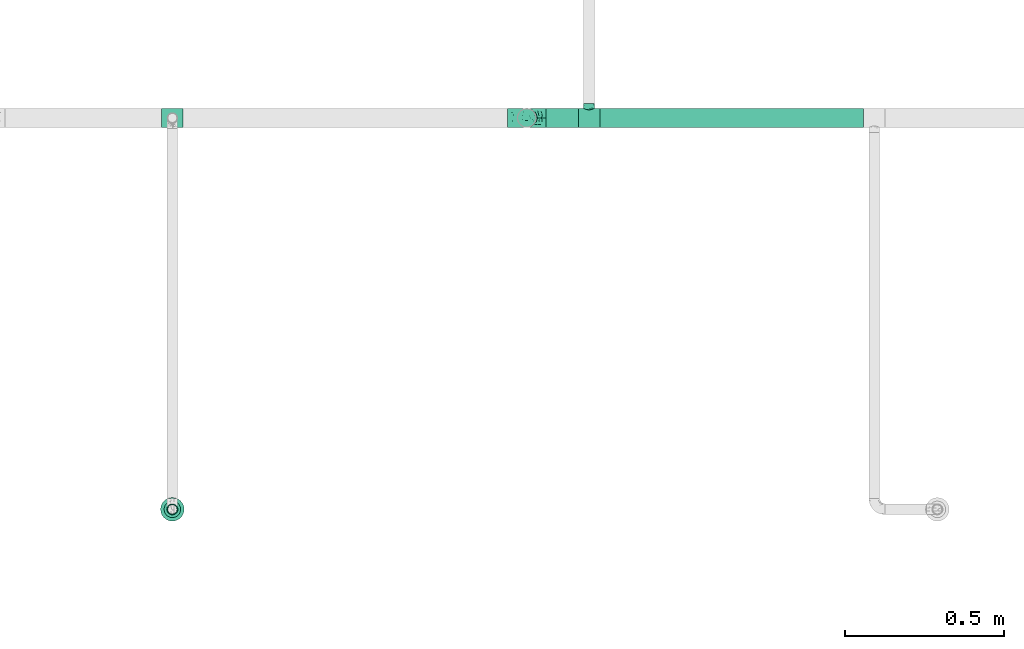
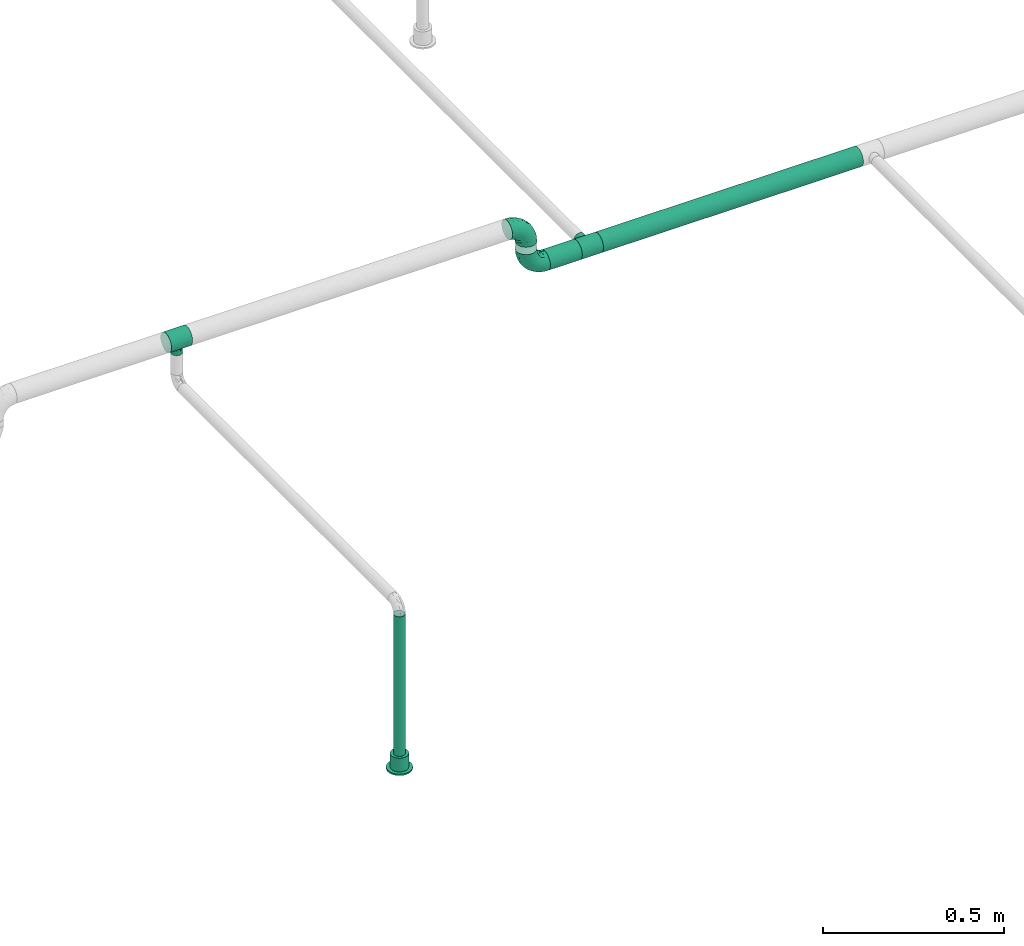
# One storey, part 24 of 95: 4 flow fittings, 3 flow segments, 1 flow terminal.
"""IFC2X3 building model written with IfcOpenShell, lengths in millimetres."""

from ifc_helpers import new_model, entity, si_unit, converted_unit, derived_unit, direction, frame, origin_with_axes, origin_2d_with_axis, place, context, subcontext, project, spatial, hollow_circle, extrude, open_shell, surface_model, source, transform, mapped, type_object, element, save


model = new_model("IFC2X3")

# Units and contexts
model_context = context("Model", 3, precision=0.01, world=frame((0.0, 4.29681676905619e-09, 0.0)), true_north=direction((4.01073788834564e-13, 1.0)))
plan_context = context("Plan", 3, precision=0.01, world=frame((0.0, 4.29681676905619e-09, 0.0)), true_north=direction((4.01073788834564e-13, 1.0)))
body_context = subcontext(model_context, "Body", "Model", "MODEL_VIEW")
ifc_project = project(units=[converted_unit("PLANEANGLEUNIT", "DEGREE", entity("IfcPositiveLengthMeasure", 0.0174532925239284), si_unit("PLANEANGLEUNIT", "RADIAN"), dimensions=[0, 0, 0, 0, 0, 0, 0]), si_unit("AREAUNIT", "SQUARE_METRE"), si_unit("LENGTHUNIT", "METRE", prefix="MILLI"), si_unit("MASSUNIT", "GRAM", prefix="KILO"), si_unit("POWERUNIT", "WATT"), si_unit("PRESSUREUNIT", "PASCAL"), si_unit("FORCEUNIT", "NEWTON", prefix="KILO"), si_unit("ELECTRICVOLTAGEUNIT", "VOLT"), si_unit("ELECTRICCURRENTUNIT", "AMPERE"), si_unit("THERMODYNAMICTEMPERATUREUNIT", "DEGREE_CELSIUS"), si_unit("TIMEUNIT", "SECOND"), si_unit("VOLUMEUNIT", "CUBIC_METRE"), derived_unit("LINEARVELOCITYUNIT", [(si_unit("LENGTHUNIT", "METRE"), 1), (si_unit("TIMEUNIT", "SECOND"), -1)]), derived_unit("VOLUMETRICFLOWRATEUNIT", [(si_unit("VOLUMEUNIT", "CUBIC_METRE"), 1), (si_unit("TIMEUNIT", "SECOND"), -1)]), derived_unit("THERMALTRANSMITTANCEUNIT", [(si_unit("POWERUNIT", "WATT"), 1), (si_unit("THERMODYNAMICTEMPERATUREUNIT", "KELVIN"), -1), (si_unit("AREAUNIT", "SQUARE_METRE"), -1)]), derived_unit("SOUNDPRESSUREUNIT", [(si_unit("PRESSUREUNIT", "PASCAL"), 1)])], contexts=[model_context, plan_context])

# Site, building, storey
site_placement = place(None, frame((0.0, -4.29681676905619e-09, 0.0), z_axis=(0.0, 0.0, 1.0), x_axis=(1.0, 0.0, 0.0)))
site = spatial("IfcSite", under=ifc_project, at=site_placement, CompositionType="ELEMENT")
building_placement = place(site_placement, frame((0.0, 4.29681676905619e-09, 0.0), z_axis=(0.0, 0.0, 1.0), x_axis=(1.0, 0.0, 0.0)))
building = spatial("IfcBuilding", under=site, at=building_placement, Name="mc-building", CompositionType="ELEMENT")
storey_placement = place(building_placement, frame((0.0, 0.0, 210900.0), z_axis=(0.0, 0.0, 1.0), x_axis=(1.0, 0.0, 0.0)))
storey = spatial("IfcBuildingStorey", under=building, at=storey_placement, Name="Nivå F", CompositionType="ELEMENT", Elevation=210900.0)

# Flow fittings
pipe_fitting_type_1 = type_object("IfcPipeFittingType", Name="magi_pipe_fe_elbow_short_001", PredefinedType="BEND")
shared_shape_1 = source(origin_with_axes(), body_context, "Body", "SurfaceModel", [
    surface_model("IfcShellBasedSurfaceModel", [(-60.4, 15.1, -26.15397), (-60.4, 7.81634, -29.17096), (-60.4, 0.0, -30.2), (-60.4, -21.35462, -21.35462), (-60.4, 26.15397, -15.1), (-60.4, 21.35462, -21.35462), (-60.4, 29.17096, -7.81634), (-60.4, -15.1, -26.15397), (-60.4, -7.81634, -29.17096), (-60.4, -26.15397, -15.1), (-60.4, -29.17096, -7.81634), (-60.4, -30.2, 0.0), (-60.4, -29.17096, 7.81634), (-60.4, 29.17096, 7.81634), (-60.4, -21.35462, 21.35462), (-60.4, 26.15397, 15.1), (-60.4, 21.35462, 21.35462), (-60.4, 7.81634, 29.17096), (-60.4, 15.1, 26.15397), (-60.4, -26.15397, 15.1), (-60.4, -7.81634, 29.17096), (-60.4, 0.0, 30.2), (-60.4, -15.1, 26.15397), (-60.4, 30.2, 0.0), (0.0, 60.4, -30.2), (-7.81634, 60.4, -29.17096), (-15.1, 60.4, -26.15397), (-26.15397, 60.4, -15.1), (-29.17096, 60.4, -7.81634), (-21.35462, 60.4, -21.35462), (29.17096, 60.4, -7.81634), (7.81634, 60.4, -29.17096), (21.35462, 60.4, -21.35462), (15.1, 60.4, -26.15397), (26.15397, 60.4, -15.1), (29.17096, 60.4, 7.81634), (30.2, 60.4, 0.0), (-29.17096, 60.4, 7.81634), (21.35462, 60.4, 21.35462), (-21.35462, 60.4, 21.35462), (-26.15397, 60.4, 15.1), (-15.1, 60.4, 26.15397), (-7.81634, 60.4, 29.17096), (26.15397, 60.4, 15.1), (15.1, 60.4, 26.15397), (0.0, 60.4, 30.2), (7.81634, 60.4, 29.17096), (-30.2, 60.4, 0.0), (-40.79975, -26.48639, 9.49143), (-44.2927, -23.46036, 16.95222), (-32.40306, -25.76572, 0.0), (-45.54716, -27.84754, 0.0), (-7.73382, -10.42985, 11.64553), (-2.102, -8.06735, 6.35117), (1.74449, -1.74448, 12.51332), (-46.13593, -4.00068, 29.68351), (-42.2898, 4.62925, 30.14853), (10.31662, 7.37496, 11.34434), (18.44156, 24.57514, 15.02148), (7.07276, 10.95732, 19.27498), (-30.06693, -0.27102, 29.27145), (-44.17726, -11.39441, 27.16031), (-23.4551, -7.13383, 25.24246), (-38.74025, -17.25266, 22.43475), (-27.059, -23.14697, 6.2131), (-19.77486, -19.33133, 0.0), (-10.95732, -7.07276, 19.27498), (-5.39458, 5.39458, 24.69106), (-29.52069, 48.20084, 13.12597), (-25.22813, 47.01796, 19.8404), (-11.27311, 52.093, 28.2877), (-4.13904, 45.17494, 30.12582), (-46.55352, 11.8443, 28.52822), (-7.88305, 20.22717, 29.65331), (-15.00576, 5.54025, 28.20072), (-3.0852, 16.31623, 27.75343), (-52.24998, 18.2886, 24.60768), (-10.49591, 29.69865, 30.14582), (-22.36958, 22.36958, 29.4662), (-17.98262, 13.19715, 30.04443), (-47.74519, 32.16745, 6.63994), (-48.21585, 29.51581, 13.12396), (-37.49729, 37.49729, 11.28901), (-47.20967, 25.1754, 19.81929), (17.25266, 38.74025, 22.43475), (-31.32046, 40.03273, 17.09289), (11.39441, 44.17725, 27.16031), (23.46036, 44.2927, 16.95222), (26.48639, 40.79975, 9.49143), (-7.14666, -12.89694, 0.0), (-14.66463, -16.61192, 7.82462), (4.00068, 46.13593, 29.68351), (-33.18602, 12.93608, 29.65955), (-29.63414, 7.40029, 30.18711), (19.33133, 19.77486, 0.0), (23.14697, 27.059, 6.2131), (16.61192, 14.66463, 7.82462), (27.84754, 45.54716, 0.0), (-32.10611, 20.49149, 27.93323), (-24.57514, -18.44156, 15.02148), (-21.89487, 39.03366, 25.38224), (-18.45005, 50.6405, 24.73297), (-31.78933, 48.71949, 6.47886), (-37.84917, 39.61073, 5.315), (13.91334, 24.32737, 20.46816), (7.13383, 23.4551, 25.24246), (-34.24603, 45.3, 0.0), (-27.95749, 31.89166, 24.81537), (-41.58677, 20.50028, 25.43151), (-0.46157, 0.46157, 17.84239), (-17.23338, 31.26213, 29.03145), (-24.05994, 29.23812, 27.47858), (-13.06094, 40.92174, 28.76128), (-31.83392, 33.72702, 21.39203), (-38.78737, 32.45032, 16.84022), (0.27102, 30.06693, 29.27145), (-24.21469, -13.23741, 21.05734), (8.23548, 2.19333, 6.02161), (25.76572, 32.40306, 0.0), (12.89694, 7.14666, 0.0), (-45.3, 34.24603, 0.0), (2.87514, -2.87514, 0.0), (-44.53432, 26.00869, -20.11577), (-48.18822, 29.5248, -13.12766), (-24.67192, -7.62159, -25.33714), (-26.22398, -0.37671, -28.72374), (-12.13397, -0.50536, -24.74577), (-47.80891, 3.81859, -30.10171), (-44.05719, -27.03585, -9.84546), (-37.94552, -22.39569, -16.35738), (-28.81663, -22.64668, -10.132), (-43.93799, 12.32789, -28.63778), (-33.27, 7.1392, -30.19348), (-26.0087, 44.53432, -20.11577), (-48.89164, 31.68872, -6.60822), (-18.95522, 47.41145, -24.9828), (-12.32789, 43.93799, -28.63778), (-38.42778, 38.42778, -7.21049), (18.04263, 43.69152, -22.80146), (10.42233, 38.24532, -26.85918), (11.90576, 51.00473, -27.48545), (-5.88381, -10.62327, -7.95335), (-5.9694, -7.83116, -13.76182), (3.24899, -2.56331, -7.96861), (-17.62229, 16.32998, -30.18286), (-28.62959, 17.86952, -29.30113), (-47.41145, 18.95522, -24.98279), (-50.84455, -24.04089, -17.54629), (-29.38053, 34.30665, -22.74674), (-27.91099, 27.91099, -26.51666), (-36.91219, 25.51094, -23.99233), (2.63361, -0.55507, -12.94367), (-43.69152, -18.04263, -22.80146), (22.39569, 37.94552, -16.35738), (27.03585, 44.05719, -9.84546), (22.64668, 28.81663, -10.132), (-51.00473, -11.90576, -27.48545), (3.80785, 44.49426, -29.64782), (-19.0921, -14.69952, -16.47487), (-22.5489, -12.31934, -21.1263), (-10.94772, -7.46239, -18.88204), (-32.95885, -13.78948, -23.71249), (-38.24532, -10.42233, -26.85918), (-44.49427, -3.80785, -29.64782), (-22.6301, 37.15314, -25.58239), (-31.68872, 48.89164, -6.60822), (-3.8186, 47.80891, -30.10171), (-10.66133, 10.66133, -28.51691), (0.37671, 26.22398, -28.72374), (1.27136, 14.18619, -25.18541), (-29.5248, 48.18821, -13.12766), (-36.27113, 36.27113, -14.88553), (24.04089, 50.84455, -17.54629), (17.50188, 24.2636, -16.21902), (9.73525, 11.44907, -16.75087), (12.31934, 22.5489, -21.1263), (6.24176, 25.78208, -26.38266), (-7.1392, 33.27, -30.19348), (-36.7166, 19.4356, -27.21946), (-18.00754, 29.38864, -29.15505), (-0.28629, 0.28629, -17.49884), (-13.98848, -16.88492, -5.19509), (15.48569, 15.00432, -11.24742), (16.88492, 13.98848, -5.19509), (3.55782, 9.20508, -21.18402), (-15.00432, -15.48569, -11.24742)], [open_shell([[[0, 1, 2]], [[0, 2, 3]], [[4, 0, 3]], [[5, 0, 4]], [[6, 4, 3]], [[7, 3, 8]], [[3, 2, 8]], [[9, 10, 3]], [[3, 10, 6]], [[11, 12, 10]], [[13, 6, 10]], [[13, 10, 14]], [[15, 13, 16]], [[17, 18, 16]], [[13, 17, 16]], [[17, 13, 14]], [[19, 14, 12]], [[12, 14, 10]], [[20, 21, 22]], [[17, 14, 22]], [[17, 22, 21]], [[13, 23, 6]], [[24, 25, 26]], [[24, 26, 27]], [[27, 28, 24]], [[27, 26, 29]], [[24, 28, 30]], [[31, 32, 33]], [[31, 24, 32]], [[32, 30, 34]], [[24, 30, 32]], [[30, 35, 36]], [[30, 28, 37]], [[38, 30, 37]], [[39, 37, 40]], [[39, 41, 42]], [[39, 42, 37]], [[38, 37, 42]], [[35, 38, 43]], [[30, 38, 35]], [[44, 45, 46]], [[44, 38, 42]], [[45, 44, 42]], [[28, 47, 37]], [[48, 49, 19]], [[50, 48, 51]], [[52, 53, 54]], [[12, 48, 19]], [[12, 51, 48]], [[21, 55, 56]], [[19, 49, 14]], [[57, 58, 59]], [[60, 61, 62]], [[63, 22, 14]], [[63, 61, 22]], [[64, 50, 65]], [[62, 66, 67]], [[40, 68, 69]], [[42, 70, 71]], [[17, 72, 18]], [[73, 74, 75]], [[18, 76, 16]], [[20, 55, 21]], [[77, 78, 79]], [[80, 81, 82]], [[15, 83, 81]], [[84, 38, 44]], [[23, 13, 80]], [[13, 15, 81]], [[68, 85, 69]], [[83, 15, 16]], [[21, 56, 17]], [[44, 86, 84]], [[16, 76, 83]], [[87, 58, 88]], [[40, 37, 68]], [[89, 90, 65]], [[45, 91, 46]], [[65, 90, 64]], [[45, 42, 71]], [[92, 93, 79]], [[88, 35, 43]], [[43, 38, 87]], [[87, 88, 43]], [[94, 95, 96]], [[88, 97, 35]], [[98, 72, 92]], [[49, 99, 63]], [[69, 100, 101]], [[82, 102, 103]], [[104, 105, 59]], [[106, 102, 47]], [[98, 107, 108]], [[102, 82, 68]], [[86, 44, 46]], [[69, 39, 40]], [[109, 54, 57]], [[110, 100, 111]], [[22, 61, 20]], [[101, 41, 39]], [[70, 42, 41]], [[112, 77, 71]], [[84, 86, 105]], [[96, 95, 58]], [[100, 69, 113]], [[72, 17, 56]], [[108, 113, 83]], [[81, 114, 82]], [[112, 110, 77]], [[91, 71, 115]], [[62, 61, 63]], [[55, 61, 60]], [[116, 99, 66]], [[74, 62, 67]], [[91, 86, 46]], [[105, 86, 115]], [[75, 105, 115]], [[109, 67, 66]], [[59, 105, 67]], [[48, 64, 99]], [[99, 49, 48]], [[63, 14, 49]], [[38, 84, 87]], [[58, 87, 84]], [[92, 72, 56]], [[76, 72, 108]], [[102, 68, 37]], [[82, 114, 85]], [[98, 111, 107]], [[112, 70, 101]], [[114, 83, 113]], [[82, 103, 80]], [[92, 79, 78]], [[115, 71, 77]], [[74, 79, 60]], [[77, 79, 73]], [[71, 91, 45]], [[86, 91, 115]], [[61, 55, 20]], [[56, 55, 60]], [[57, 54, 117]], [[104, 59, 58]], [[116, 66, 62]], [[52, 99, 90]], [[12, 11, 51]], [[97, 88, 118]], [[97, 36, 35]], [[53, 90, 89]], [[90, 53, 52]], [[94, 96, 119]], [[88, 95, 118]], [[117, 54, 53]], [[92, 56, 93]], [[98, 92, 78]], [[111, 98, 78]], [[72, 98, 108]], [[110, 111, 78]], [[107, 111, 100]], [[47, 102, 37]], [[102, 106, 103]], [[106, 120, 103]], [[103, 120, 80]], [[23, 80, 120]], [[13, 81, 80]], [[56, 60, 93]], [[60, 79, 93]], [[117, 121, 119]], [[121, 117, 53]], [[53, 89, 121]], [[119, 96, 117]], [[117, 96, 57]], [[77, 110, 78]], [[100, 110, 112]], [[83, 114, 81]], [[85, 114, 113]], [[69, 85, 113]], [[82, 85, 68]], [[109, 52, 54]], [[99, 52, 66]], [[69, 101, 39]], [[112, 101, 100]], [[100, 113, 107]], [[108, 107, 113]], [[62, 74, 60]], [[75, 74, 67]], [[105, 75, 67]], [[73, 75, 115]], [[77, 73, 115]], [[74, 73, 79]], [[99, 64, 90]], [[50, 64, 48]], [[118, 95, 94]], [[58, 95, 88]], [[58, 57, 96]], [[109, 57, 59]], [[72, 76, 18]], [[83, 76, 108]], [[101, 70, 41]], [[71, 70, 112]], [[58, 84, 104]], [[105, 104, 84]], [[67, 109, 59]], [[52, 109, 66]], [[62, 63, 116]], [[99, 116, 63]], [[122, 4, 123]], [[124, 125, 126]], [[2, 1, 127]], [[128, 129, 130]], [[127, 131, 132]], [[27, 29, 133]], [[120, 134, 23]], [[135, 26, 136]], [[123, 134, 137]], [[138, 139, 140]], [[122, 5, 4]], [[141, 142, 143]], [[144, 132, 145]], [[131, 0, 146]], [[128, 9, 147]], [[148, 149, 150]], [[128, 51, 10]], [[142, 151, 143]], [[152, 3, 7]], [[153, 154, 155]], [[156, 152, 7]], [[31, 157, 24]], [[158, 159, 160]], [[147, 9, 3]], [[129, 152, 161]], [[156, 7, 8]], [[162, 163, 125]], [[154, 34, 30]], [[120, 106, 137]], [[149, 148, 164]], [[47, 28, 165]], [[163, 8, 2]], [[4, 6, 123]], [[25, 166, 136]], [[167, 168, 169]], [[170, 133, 171]], [[25, 24, 166]], [[33, 32, 138]], [[157, 31, 140]], [[28, 27, 170]], [[32, 34, 172]], [[26, 135, 29]], [[132, 131, 145]], [[31, 33, 140]], [[173, 174, 175]], [[169, 168, 176]], [[25, 136, 26]], [[175, 138, 173]], [[168, 177, 157]], [[163, 162, 156]], [[153, 172, 154]], [[9, 128, 10]], [[154, 97, 118]], [[131, 178, 145]], [[0, 5, 146]], [[175, 139, 138]], [[155, 118, 94]], [[131, 1, 0]], [[146, 178, 131]], [[170, 137, 165]], [[149, 179, 145]], [[171, 133, 148]], [[160, 180, 142]], [[65, 181, 89]], [[170, 165, 28]], [[137, 171, 123]], [[172, 138, 32]], [[138, 153, 173]], [[168, 157, 139]], [[166, 157, 177]], [[176, 175, 169]], [[168, 167, 144]], [[154, 30, 97]], [[155, 182, 173]], [[162, 124, 161]], [[147, 152, 129]], [[127, 163, 2]], [[132, 144, 125]], [[132, 125, 163]], [[125, 167, 126]], [[129, 158, 130]], [[30, 36, 97]], [[143, 182, 183]], [[169, 126, 167]], [[5, 122, 146]], [[178, 150, 149]], [[136, 179, 164]], [[133, 29, 135]], [[123, 6, 134]], [[122, 123, 171]], [[133, 170, 27]], [[137, 170, 171]], [[184, 175, 174]], [[180, 160, 126]], [[126, 169, 184]], [[126, 159, 124]], [[51, 128, 50]], [[51, 11, 10]], [[131, 127, 1]], [[163, 127, 132]], [[157, 166, 24]], [[136, 166, 177]], [[164, 179, 149]], [[144, 167, 125]], [[179, 144, 145]], [[168, 144, 177]], [[136, 177, 179]], [[144, 179, 177]], [[141, 121, 89]], [[89, 181, 141]], [[154, 118, 155]], [[183, 155, 94]], [[143, 183, 119]], [[119, 183, 94]], [[155, 183, 182]], [[181, 130, 185]], [[50, 128, 130]], [[130, 181, 65]], [[50, 130, 65]], [[141, 181, 185]], [[142, 141, 185]], [[143, 121, 141]], [[158, 160, 142]], [[142, 180, 151]], [[158, 142, 185]], [[126, 160, 159]], [[130, 158, 185]], [[129, 159, 158]], [[23, 134, 6]], [[120, 137, 134]], [[137, 106, 165]], [[47, 165, 106]], [[174, 151, 180]], [[182, 143, 151]], [[150, 146, 122]], [[149, 145, 178]], [[146, 150, 178]], [[122, 171, 148]], [[148, 150, 122]], [[164, 133, 135]], [[133, 164, 148]], [[164, 135, 136]], [[138, 140, 33]], [[157, 140, 139]], [[154, 172, 34]], [[138, 172, 153]], [[163, 156, 8]], [[152, 156, 162]], [[152, 147, 3]], [[128, 147, 129]], [[155, 173, 153]], [[174, 173, 182]], [[151, 174, 182]], [[174, 180, 184]], [[126, 184, 180]], [[175, 184, 169]], [[168, 139, 176]], [[175, 176, 139]], [[161, 124, 159]], [[125, 124, 162]], [[129, 161, 159]], [[162, 161, 152]], [[143, 119, 121]]])]),
])
for number, where, z_axis, x_axis, name in (
    (1, (529808.06458, 450838.0, 4455.47503999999), (0.0, 1.0, 0.0), (1.0, 0.0, 0.0), "magi_pipe_fe_elbow_short_001"),
    (2, (529808.06458, 450838.0, 4310.0), (0.0, -1.0, 0.0), (0.0, 0.0, -1.0), "magi_pipe_fe_elbow_short_001"),
):
    element("IfcFlowFitting", number, at=place(storey_placement, frame(where, z_axis=z_axis, x_axis=x_axis)), inside=storey, type_object=pipe_fitting_type_1, Name=name, context=body_context, shape_type="MappedRepresentation", body=[
        mapped(shared_shape_1, transform((0.0, 0.0, 0.0), scale=1.0)),
    ])
pipe_fitting_type_2 = type_object("IfcPipeFittingType", Name="magi_pipe_fe_tee_centric_90_NOR", PredefinedType="JUNCTION")
shared_shape_2 = source(origin_with_axes(), body_context, "Body", "SurfaceModel", [
    surface_model("IfcShellBasedSurfaceModel", [(-33.8, 15.1, -26.15397), (-33.8, 7.81634, -29.17096), (-33.8, 0.0, -30.2), (-33.8, 29.17096, -7.81634), (-33.8, 26.15397, -15.1), (-33.8, 21.35462, -21.35462), (-33.8, 30.2, 0.0), (-33.8, -30.2, 0.0), (-33.8, -15.1, -26.15397), (-33.8, -21.35462, -21.35462), (-33.8, -7.81634, -29.17096), (-33.8, -26.15397, -15.1), (-33.8, -29.17096, -7.81634), (-33.8, 26.15397, 15.1), (-33.8, 29.17096, 7.81634), (-33.8, 15.1, 26.15397), (-33.8, -21.35462, 21.35462), (-33.8, 21.35462, 21.35462), (-33.8, 7.81634, 29.17096), (-33.8, -29.17096, 7.81634), (-33.8, -26.15397, 15.1), (-33.8, -7.81634, 29.17096), (-33.8, 0.0, 30.2), (-33.8, -15.1, 26.15397), (33.8, 29.17096, -7.81634), (33.8, 0.0, -30.2), (33.8, 7.81634, -29.17096), (33.8, 21.35462, -21.35462), (33.8, 15.1, -26.15397), (33.8, 26.15397, -15.1), (33.8, -30.2, 0.0), (33.8, -7.81634, -29.17096), (33.8, -21.35462, -21.35462), (33.8, -15.1, -26.15397), (33.8, -29.17096, -7.81634), (33.8, -26.15397, -15.1), (33.8, 30.2, 0.0), (33.8, 29.17096, 7.81634), (33.8, 26.15397, 15.1), (33.8, -29.17096, 7.81634), (33.8, 15.1, 26.15397), (33.8, 7.81634, 29.17096), (33.8, 21.35462, 21.35462), (33.8, -21.35462, 21.35462), (33.8, -26.15397, 15.1), (33.8, -15.1, 26.15397), (33.8, 0.0, 30.2), (33.8, -7.81634, 29.17096), (33.8, -29.68548, 3.90817), (15.846, -29.62306, 5.87488), (16.373, -29.91153, 2.93744), (12.91037, -28.16217, 10.90561), (2.99213, -25.2068, 16.63301), (16.9, -30.2, 0.0), (33.8, -27.66246, 11.45817), (8.50854, -26.43531, 14.60187), (-8.51006, -26.43579, 14.60099), (-33.8, -27.66246, 11.45817), (-12.91447, -28.16405, 10.90075), (-15.84655, -29.62335, 5.87341), (-33.8, -29.68548, 3.90817), (-16.37327, -29.91168, 2.93671), (-16.9, -30.2, 0.0), (-2.99705, -25.20739, 16.63213), (2.99213, -25.2068, -16.63301), (-16.37327, -29.91168, -2.93671), (8.50854, -26.43531, -14.60187), (33.8, -27.66246, -11.45817), (16.373, -29.91153, -2.93744), (-33.8, -29.68548, -3.90817), (-15.84655, -29.62335, -5.87341), (15.846, -29.62306, -5.87488), (12.91037, -28.16217, -10.90561), (33.8, -29.68548, -3.90817), (-2.99705, -25.20739, -16.63213), (-8.51006, -26.43579, -14.60099), (-12.91447, -28.16405, -10.90075), (-33.8, -27.66246, -11.45817), (4.37404, -45.3, -16.32415), (-16.9, -45.3, 0.0), (0.0, -45.3, -16.9), (14.63583, -45.3, -8.45), (8.45, -45.3, -14.63583), (16.32415, -45.3, -4.37404), (11.9501, -45.3, -11.9501), (-11.9501, -45.3, -11.9501), (-8.45, -45.3, -14.63583), (-4.37404, -45.3, -16.32415), (-14.63583, -45.3, -8.45), (-16.32415, -45.3, -4.37404), (16.9, -45.3, 0.0), (8.45, -45.3, 14.63583), (16.32415, -45.3, 4.37404), (14.63583, -45.3, 8.45), (-8.45, -45.3, 14.63583), (11.9501, -45.3, 11.9501), (4.37404, -45.3, 16.32415), (-16.32415, -45.3, 4.37404), (-11.9501, -45.3, 11.9501), (-14.63583, -45.3, 8.45), (0.0, -45.3, 16.9), (-4.37404, -45.3, 16.32415), (-5.75355, -25.82159, 15.61656), (-0.00246, -25.20709, 16.63257), (5.75034, -25.82105, 15.61744), (5.75034, -25.82105, -15.61744), (-0.00246, -25.20709, -16.63257), (-5.75355, -25.82159, -15.61656)], [open_shell([[[0, 1, 2]], [[3, 0, 2]], [[0, 3, 4]], [[5, 0, 4]], [[6, 2, 7]], [[8, 9, 10]], [[9, 2, 10]], [[11, 12, 9]], [[7, 9, 12]], [[9, 7, 2]], [[6, 3, 2]], [[13, 14, 6]], [[7, 15, 13]], [[7, 16, 15]], [[17, 13, 15]], [[18, 15, 16]], [[19, 20, 7]], [[7, 20, 16]], [[21, 22, 23]], [[16, 23, 22]], [[16, 22, 18]], [[7, 13, 6]], [[24, 25, 26]], [[27, 26, 28]], [[29, 24, 26]], [[29, 26, 27]], [[25, 24, 30]], [[31, 32, 33]], [[32, 31, 34]], [[32, 34, 35]], [[34, 31, 30]], [[31, 25, 30]], [[24, 36, 30]], [[36, 37, 38]], [[39, 36, 38]], [[40, 41, 38]], [[40, 38, 42]], [[43, 38, 41]], [[39, 43, 44]], [[39, 38, 43]], [[45, 46, 47]], [[46, 45, 43]], [[41, 46, 43]], [[36, 39, 30]], [[48, 39, 49]], [[30, 48, 50]], [[39, 51, 49]], [[44, 43, 52]], [[30, 50, 53]], [[51, 54, 55]], [[52, 55, 44]], [[48, 49, 50]], [[43, 16, 52]], [[55, 54, 44]], [[56, 57, 58]], [[59, 60, 61]], [[62, 61, 7]], [[59, 58, 19]], [[56, 63, 20]], [[51, 39, 54]], [[20, 57, 56]], [[20, 63, 16]], [[58, 57, 19]], [[63, 52, 16]], [[7, 61, 60]], [[59, 19, 60]], [[43, 23, 16]], [[22, 47, 46]], [[21, 45, 47]], [[18, 46, 41]], [[38, 37, 14]], [[17, 40, 42]], [[13, 42, 38]], [[41, 40, 15]], [[6, 37, 36]], [[23, 45, 21]], [[21, 47, 22]], [[18, 22, 46]], [[41, 15, 18]], [[15, 40, 17]], [[13, 17, 42]], [[14, 13, 38]], [[37, 6, 14]], [[45, 23, 43]], [[4, 24, 29]], [[3, 36, 24]], [[5, 29, 27]], [[25, 31, 10]], [[1, 28, 26]], [[2, 26, 25]], [[27, 28, 0]], [[8, 31, 33]], [[6, 36, 3]], [[3, 24, 4]], [[5, 4, 29]], [[27, 0, 5]], [[0, 28, 1]], [[2, 1, 26]], [[10, 2, 25]], [[31, 8, 10]], [[33, 9, 8]], [[32, 35, 64]], [[7, 65, 62]], [[66, 64, 35]], [[67, 66, 35]], [[32, 64, 9]], [[53, 68, 30]], [[69, 70, 65]], [[71, 72, 34]], [[71, 73, 68]], [[66, 67, 72]], [[34, 72, 67]], [[74, 75, 11]], [[76, 12, 77]], [[11, 9, 74]], [[76, 77, 75]], [[74, 9, 64]], [[76, 70, 12]], [[71, 34, 73]], [[70, 69, 12]], [[65, 7, 69]], [[30, 68, 73]], [[77, 11, 75]], [[32, 9, 33]], [[78, 79, 80]], [[81, 78, 82]], [[81, 83, 78]], [[81, 82, 84]], [[79, 78, 83]], [[80, 85, 86]], [[86, 87, 80]], [[88, 79, 89]], [[85, 80, 88]], [[79, 88, 80]], [[83, 90, 79]], [[91, 90, 92]], [[91, 92, 93]], [[94, 79, 91]], [[91, 93, 95]], [[94, 91, 96]], [[97, 98, 99]], [[98, 97, 94]], [[94, 100, 101]], [[97, 79, 94]], [[96, 100, 94]], [[91, 79, 90]], [[97, 61, 79]], [[58, 99, 98]], [[97, 99, 59]], [[98, 94, 56]], [[61, 62, 79]], [[59, 99, 58]], [[101, 63, 102]], [[56, 58, 98]], [[100, 52, 103]], [[91, 104, 96]], [[100, 96, 52]], [[50, 49, 92]], [[50, 90, 53]], [[104, 91, 55]], [[102, 94, 101]], [[102, 56, 94]], [[100, 63, 101]], [[97, 59, 61]], [[55, 91, 95]], [[95, 51, 55]], [[52, 96, 104]], [[92, 49, 93]], [[90, 50, 92]], [[93, 49, 51]], [[93, 51, 95]], [[103, 63, 100]], [[83, 68, 90]], [[72, 81, 84]], [[83, 81, 71]], [[84, 82, 66]], [[68, 53, 90]], [[71, 81, 72]], [[78, 64, 105]], [[66, 72, 84]], [[80, 74, 106]], [[86, 107, 87]], [[65, 70, 89]], [[105, 82, 78]], [[105, 66, 82]], [[75, 86, 85]], [[83, 71, 68]], [[70, 88, 89]], [[65, 79, 62]], [[85, 88, 76]], [[80, 64, 78]], [[87, 107, 74]], [[74, 80, 87]], [[75, 107, 86]], [[75, 85, 76]], [[76, 88, 70]], [[79, 65, 89]], [[106, 64, 80]]])]),
])
for number, where, z_axis, x_axis, name in (
    (3, (530003.88278, 450838.0, 4310.0), (0.0, 0.0, -1.0), (1.0, 0.0, 0.0), "magi_pipe_fe_tee_centric_90_NOR"),
    (4, (528694.26458, 450838.0, 4455.47503999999), (0.0, 1.0, 0.0), (-1.0, 0.0, 0.0), "magi_pipe_fe_tee_centric_90_NOR"),
):
    element("IfcFlowFitting", number, at=place(storey_placement, frame(where, z_axis=z_axis, x_axis=x_axis)), inside=storey, type_object=pipe_fitting_type_2, Name=name, context=body_context, shape_type="MappedRepresentation", body=[
        mapped(shared_shape_2, transform((0.0, 0.0, 0.0), scale=1.0)),
    ])

# Flow segments
pipe_segment_type = type_object("IfcPipeSegmentType", Name="Stålrør normaltykke", PredefinedType="RIGIDSEGMENT")
shared_shape_3 = source(origin_with_axes(), body_context, "Body", "SweptSolid", [
    extrude(hollow_circle(Radius=16.9, WallThickness=2.0, at=origin_2d_with_axis()), frame((0.0, 0.0, 0.0), z_axis=(1.0, 0.0, 0.0), x_axis=(0.0, 1.0, 0.0)), (0.0, 0.0, 1.0), 506.9),
])
flow_segment_1_placement = place(storey_placement, frame((528694.26458, 449607.85, 4276.20000000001), z_axis=(-0.000893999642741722, -0.99999960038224, 0.0), x_axis=(0.0, 0.0, -1.0)))
element("IfcFlowSegment", 5, at=flow_segment_1_placement, inside=storey, type_object=pipe_segment_type, Name="Stålrør normaltykke", context=body_context, shape_type="MappedRepresentation", body=[
    mapped(shared_shape_3, transform((0.0, 0.0, 0.0), scale=1.0)),
])
shared_shape_4 = source(origin_with_axes(), body_context, "Body", "SweptSolid", [
    extrude(hollow_circle(Radius=30.1, WallThickness=2.0, at=origin_2d_with_axis()), frame((0.0, 0.0, 0.0), z_axis=(1.0, 0.0, 0.0), x_axis=(0.0, 1.0, 0.0)), (0.0, 0.0, 1.0), 828.5),
])
flow_segment_2_placement = place(storey_placement, frame((530866.2, 450838.0, 4310.0), z_axis=(0.0, 0.0, 1.0), x_axis=(-1.0, 0.0, 0.0)))
element("IfcFlowSegment", 6, at=flow_segment_2_placement, inside=storey, type_object=pipe_segment_type, Name="Stålrør normaltykke", context=body_context, shape_type="MappedRepresentation", body=[
    mapped(shared_shape_4, transform((0.0, 0.0, 0.0), scale=1.0)),
])
shared_shape_5 = source(origin_with_axes(), body_context, "Body", "SweptSolid", [
    extrude(hollow_circle(Radius=30.1, WallThickness=2.0, at=origin_2d_with_axis()), frame((0.0, 0.0, 0.0), z_axis=(1.0, 0.0, 0.0), x_axis=(0.0, 1.0, 0.0)), (0.0, 0.0, 1.0), 101.6),
])
flow_segment_3_placement = place(storey_placement, frame((529970.08278, 450838.0, 4310.0), z_axis=(0.0, 0.0, 1.0), x_axis=(-1.0, 0.0, 0.0)))
element("IfcFlowSegment", 7, at=flow_segment_3_placement, inside=storey, type_object=pipe_segment_type, Name="Stålrør normaltykke", context=body_context, shape_type="MappedRepresentation", body=[
    mapped(shared_shape_5, transform((0.0, 0.0, 0.0), scale=1.0)),
])

# Flow terminal
fire_suppression_terminal_type = type_object("IfcFireSuppressionTerminalType", Name="68DGR-STD-SKJULT I HIMLING", PredefinedType="NOTDEFINED")
shared_shape_6 = source(origin_with_axes(), body_context, "Body", "SurfaceModel", [
    surface_model("IfcShellBasedSurfaceModel", [(-26.0, 0.0, -46.0), (-25.11407, -6.72929, -46.0), (-25.11407, -6.72929, 0.0), (6.72929, -25.11407, 0.0), (6.72929, -25.11407, -46.0), (13.0, -22.51666, -46.0), (22.51666, -13.0, -46.0), (22.51666, -13.0, 0.0), (18.38478, -18.38478, 0.0), (25.11407, -6.72929, 0.0), (25.11407, -6.72929, -46.0), (26.0, 0.0, -46.0), (26.0, 0.0, 0.0), (25.11407, 6.72929, -46.0), (22.51666, 13.0, 0.0), (25.11407, 6.72929, 0.0), (13.0, 22.51666, -46.0), (6.72929, 25.11407, -46.0), (6.72929, 25.11407, 0.0), (18.38478, 18.38478, 0.0), (22.51666, 13.0, -46.0), (-25.11407, 6.72929, 0.0), (-25.11407, 6.72929, -46.0), (-26.16295, -26.16295, 5.0), (35.73926, -9.57631, 5.0), (37.0, 0.0, 5.0), (13.0, 22.51666, 0.0), (-26.0, 0.0, 0.0), (-13.0, 22.51666, 0.0), (-6.72929, 25.11407, 0.0), (0.0, 26.0, 0.0), (-22.51666, 13.0, 0.0), (-18.38478, 18.38478, 0.0), (13.0, -22.51666, 0.0), (0.0, -26.0, 0.0), (-22.51666, -13.0, 0.0), (-18.38478, -18.38478, 0.0), (-13.0, -22.51666, 0.0), (-6.72929, -25.11407, 0.0), (0.0, -26.0, -46.0), (18.38478, -18.38478, -46.0), (-18.38478, -18.38478, -46.0), (-13.0, -22.51666, -46.0), (-6.72929, -25.11407, -46.0), (-22.51666, -13.0, -46.0), (18.38478, 18.38478, -46.0), (-22.51666, 13.0, -46.0), (-18.38478, 18.38478, -46.0), (-13.0, 22.51666, -46.0), (-6.72929, 25.11407, -46.0), (0.0, 26.0, -46.0), (18.5, 32.04294, 5.0), (9.57631, 35.73926, 5.0), (35.73926, 9.57631, 5.0), (26.16295, 26.16295, 5.0), (32.04294, 18.5, 5.0), (-35.73926, -9.57631, 5.0), (-18.5, 32.04294, 5.0), (-9.57631, 35.73926, 5.0), (0.0, 37.0, 5.0), (-32.04294, 18.5, 5.0), (-35.73926, 9.57631, 5.0), (-26.16295, 26.16295, 5.0), (-37.0, 0.0, 5.0), (32.04294, -18.5, 5.0), (0.0, -37.0, 5.0), (26.16295, -26.16295, 5.0), (18.5, -32.04294, 5.0), (9.57631, -35.73926, 5.0), (-9.57631, -35.73926, 5.0), (-32.04294, -18.5, 5.0), (-18.5, -32.04294, 5.0), (18.5, -32.04294, 0.0), (9.57631, -35.73926, 0.0), (0.0, -37.0, 0.0), (32.04294, -18.5, 0.0), (-26.16295, -26.16295, 0.0), (26.16295, -26.16295, 0.0), (-35.73926, 9.57631, 0.0), (-18.5, -32.04294, 0.0), (-9.57631, -35.73926, 0.0), (-32.04294, -18.5, 0.0), (-35.73926, -9.57631, 0.0), (-37.0, 0.0, 0.0), (35.73926, -9.57631, 0.0), (35.73926, 9.57631, 0.0), (32.04294, 18.5, 0.0), (18.5, 32.04294, 0.0), (9.57631, 35.73926, 0.0), (26.16295, 26.16295, 0.0), (-32.04294, 18.5, 0.0), (-26.16295, 26.16295, 0.0), (-9.57631, 35.73926, 0.0), (0.0, 37.0, 0.0), (-18.5, 32.04294, 0.0), (37.0, 0.0, 0.0)], [open_shell([[[0, 1, 2]], [[3, 4, 5]], [[6, 7, 8]], [[9, 7, 10]], [[11, 12, 9]], [[13, 14, 15]], [[15, 12, 11]], [[16, 17, 18]], [[19, 14, 20]], [[21, 22, 0]], [[23, 24, 25]], [[19, 26, 18]], [[19, 18, 21]], [[27, 15, 19]], [[14, 19, 15]], [[19, 21, 27]], [[28, 21, 29]], [[18, 30, 29]], [[31, 21, 32]], [[28, 32, 21]], [[29, 21, 18]], [[12, 15, 27]], [[8, 7, 9]], [[33, 8, 9]], [[34, 3, 33]], [[9, 34, 33]], [[27, 34, 9]], [[2, 35, 27]], [[36, 27, 35]], [[37, 38, 36]], [[34, 27, 36]], [[36, 38, 34]], [[12, 27, 9]], [[5, 4, 39]], [[5, 39, 22]], [[10, 6, 40]], [[5, 10, 40]], [[39, 41, 22]], [[42, 41, 43]], [[41, 39, 43]], [[1, 0, 44]], [[44, 0, 22]], [[22, 41, 44]], [[10, 5, 22]], [[45, 13, 10]], [[20, 13, 45]], [[17, 16, 45]], [[10, 22, 45]], [[45, 22, 17]], [[46, 47, 22]], [[48, 22, 47]], [[48, 49, 22]], [[49, 17, 22]], [[49, 50, 17]], [[11, 10, 13]], [[46, 22, 21]], [[46, 31, 47]], [[49, 48, 28]], [[32, 48, 47]], [[50, 49, 29]], [[21, 0, 27]], [[21, 31, 46]], [[31, 32, 47]], [[48, 32, 28]], [[28, 29, 49]], [[29, 30, 50]], [[16, 26, 45]], [[13, 20, 14]], [[19, 20, 45]], [[11, 13, 15]], [[30, 18, 17]], [[18, 26, 16]], [[26, 19, 45]], [[50, 30, 17]], [[11, 9, 10]], [[10, 7, 6]], [[3, 39, 4]], [[6, 8, 40]], [[3, 5, 33]], [[8, 33, 5]], [[5, 40, 8]], [[3, 34, 39]], [[42, 43, 38]], [[42, 37, 41]], [[1, 44, 35]], [[36, 44, 41]], [[34, 38, 43]], [[38, 37, 42]], [[37, 36, 41]], [[36, 35, 44]], [[1, 35, 2]], [[2, 27, 0]], [[39, 34, 43]], [[51, 52, 53]], [[54, 51, 55]], [[56, 52, 57]], [[55, 51, 53]], [[52, 56, 53]], [[58, 57, 59]], [[57, 52, 59]], [[60, 61, 62]], [[57, 62, 63]], [[62, 61, 63]], [[53, 23, 25]], [[64, 24, 65]], [[66, 64, 67]], [[65, 68, 67]], [[64, 65, 67]], [[69, 65, 24]], [[70, 23, 56]], [[56, 57, 63]], [[71, 69, 23]], [[23, 53, 56]], [[24, 23, 69]], [[72, 73, 74]], [[75, 72, 74]], [[76, 75, 74]], [[77, 72, 75]], [[75, 76, 78]], [[79, 76, 80]], [[76, 74, 80]], [[81, 82, 76]], [[82, 78, 76]], [[83, 78, 82]], [[75, 78, 84]], [[85, 84, 78]], [[86, 85, 87]], [[85, 88, 87]], [[89, 86, 87]], [[88, 85, 78]], [[90, 91, 78]], [[91, 88, 78]], [[92, 93, 94]], [[88, 91, 94]], [[88, 94, 93]], [[95, 84, 85]], [[83, 61, 78]], [[78, 60, 90]], [[94, 91, 57]], [[62, 91, 90]], [[92, 94, 58]], [[61, 60, 78]], [[83, 63, 61]], [[94, 57, 58]], [[57, 91, 62]], [[90, 60, 62]], [[92, 58, 59]], [[59, 93, 92]], [[93, 52, 88]], [[88, 51, 87]], [[86, 89, 55]], [[54, 89, 87]], [[85, 86, 53]], [[51, 54, 87]], [[88, 52, 51]], [[85, 53, 25]], [[53, 86, 55]], [[89, 54, 55]], [[85, 25, 95]], [[59, 52, 93]], [[95, 24, 84]], [[84, 64, 75]], [[72, 77, 67]], [[66, 77, 75]], [[73, 72, 68]], [[24, 64, 84]], [[95, 25, 24]], [[72, 67, 68]], [[67, 77, 66]], [[75, 64, 66]], [[73, 68, 65]], [[65, 74, 73]], [[74, 69, 80]], [[80, 71, 79]], [[81, 76, 70]], [[23, 76, 79]], [[82, 81, 56]], [[71, 23, 79]], [[80, 69, 71]], [[82, 56, 63]], [[56, 81, 70]], [[76, 23, 70]], [[82, 63, 83]], [[65, 69, 74]]])]),
])
flow_terminal_placement = place(storey_placement, frame((528694.26458, 449607.85, 3759.89999999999), z_axis=(0.0, 0.0, -1.0), x_axis=(1.0, 0.0, 0.0)))
element("IfcFlowTerminal", 8, at=flow_terminal_placement, inside=storey, type_object=fire_suppression_terminal_type, Name="68DGR-STD-SKJULT I HIMLING", context=body_context, shape_type="MappedRepresentation", body=[
    mapped(shared_shape_6, transform((0.0, 0.0, 0.0), scale=1.0)),
])

save(model, "model.ifc")
